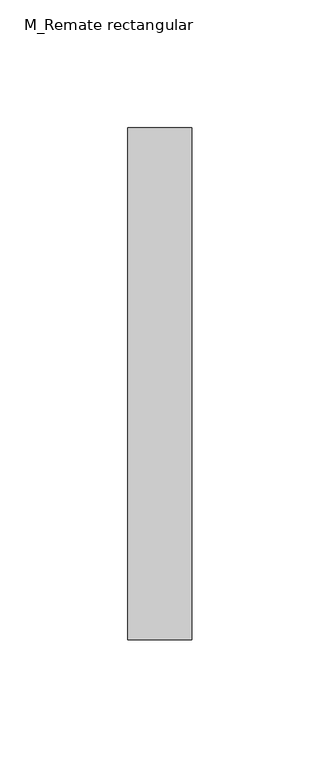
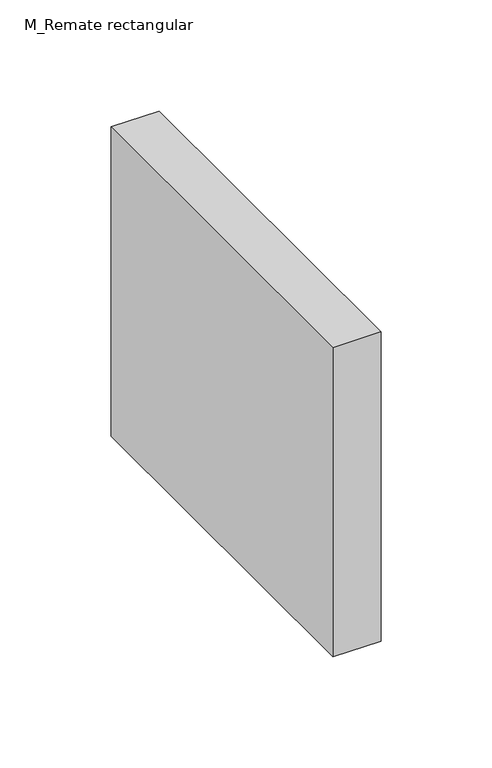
"""IFC4 building model written with IfcOpenShell, lengths in millimetres: duct fitting geometry, M_Remate rectangular : Estándar."""

import ifcopenshell
import ifcopenshell.guid

model = None  # the IFC model being written
_history = None  # IfcOwnerHistory: only IFC2X3 demands one
_inside = {}  # id of a spatial element -> (the spatial element, [elements in it])
_under = {}  # id of a project, library or spatial element -> (it, [spatial elements below it])
_declared = {}  # id of a project -> (the project, [libraries it declares])
_typed = {}  # id of a type object -> (the type object, [elements of that type])
_made_of = {}  # id of a material, layer set ... -> (it, [elements and type objects made of it])


def new_model(schema):
    """Start an empty IFC model of exactly this schema.

    Asked for "IFC4X3", IfcOpenShell would pick the latest addendum, in which some entities
    have other attributes; the version numbers below select the first issue.
    IFC2X3 requires an IfcOwnerHistory on every rooted entity: one is made here for all.
    """
    global model, _history
    if schema == "IFC4X3":
        model = ifcopenshell.file(schema_version=(4, 3, 0, 0))
    else:
        model = ifcopenshell.file(schema=schema)
    _inside.clear()
    _under.clear()
    _declared.clear()
    _typed.clear()
    _made_of.clear()
    _history = None
    if model.schema == "IFC2X3":
        org = make("IfcOrganization", Name="unknown")
        user = make(
            "IfcPersonAndOrganization",
            ThePerson=make("IfcPerson", FamilyName="unknown"),
            TheOrganization=org,
        )
        app = make(
            "IfcApplication",
            ApplicationDeveloper=org,
            Version="unknown",
            ApplicationFullName="unknown",
            ApplicationIdentifier="unknown",
        )
        _history = make(
            "IfcOwnerHistory",
            OwningUser=user,
            OwningApplication=app,
            ChangeAction="ADDED",
            CreationDate=0,
        )
    return model


def make(cls, **values):
    """One entity of the class cls with the attributes given. An attribute that is None is left unset."""
    return model.create_entity(
        cls, **{name: value for name, value in values.items() if value is not None}
    )


def rooted(cls, **values):
    """An entity with a GlobalId (a new one), such as an element, a storey or a relation."""
    return make(cls, GlobalId=ifcopenshell.guid.new(), OwnerHistory=_history, **values)


def si_unit(unit_type, name, prefix=None):
    """IfcSIUnit, for example si_unit("LENGTHUNIT", "METRE", prefix="MILLI")."""
    return make("IfcSIUnit", UnitType=unit_type, Prefix=prefix, Name=name)


def assignment(units):
    """IfcUnitAssignment: the units of a project."""
    return None if units is None else make("IfcUnitAssignment", Units=units)


def point(xyz):
    """IfcCartesianPoint."""
    return None if xyz is None else make("IfcCartesianPoint", Coordinates=xyz)


def direction(xyz):
    """IfcDirection."""
    return None if xyz is None else make("IfcDirection", DirectionRatios=xyz)


def frame(location, z_axis=None, x_axis=None):
    """IfcAxis2Placement3D, a coordinate frame: its origin and axes. An axis left out is left unset."""
    return make(
        "IfcAxis2Placement3D",
        Location=point(location),
        Axis=direction(z_axis),
        RefDirection=direction(x_axis),
    )


def origin():
    """The frame at (0, 0, 0) with its axes left unset."""
    return frame((0.0, 0.0, 0.0))


def place(relative_to, where):
    """IfcLocalPlacement: puts the frame where relative to a parent placement (None: the world)."""
    return make(
        "IfcLocalPlacement", PlacementRelTo=relative_to, RelativePlacement=where
    )


def context(
    kind, dimensions, precision=None, world=None, true_north=None, identifier=None
):
    """IfcGeometricRepresentationContext, for example the 3D "Model" context."""
    return make(
        "IfcGeometricRepresentationContext",
        ContextIdentifier=identifier,
        ContextType=kind,
        CoordinateSpaceDimension=dimensions,
        Precision=precision,
        WorldCoordinateSystem=world,
        TrueNorth=true_north,
    )


def project(units=None, contexts=None):
    """IfcProject with its units and contexts."""
    return rooted(
        "IfcProject",
        Name="project",
        RepresentationContexts=contexts,
        UnitsInContext=assignment(units),
    )


def spatial(cls, under=None, at=None, **own):
    """A site, building, storey or space (cls), placed at a placement, below another one or the project."""
    s = rooted(cls, ObjectPlacement=at, **own)
    if under is not None:
        _under.setdefault(under.id(), (under, []))[1].append(s)
    return s


def polyline(points):
    """IfcPolyline through the points."""
    return make("IfcPolyline", Points=[point(p) for p in points])


def outline(outer, holes=None, kind="AREA"):
    """IfcArbitraryClosedProfileDef: a profile drawn as a closed curve; with holes, ...WithVoids."""
    if holes is None:
        return make("IfcArbitraryClosedProfileDef", ProfileType=kind, OuterCurve=outer)
    return make(
        "IfcArbitraryProfileDefWithVoids",
        ProfileType=kind,
        OuterCurve=outer,
        InnerCurves=holes,
    )


def extrude(swept, where, along, depth):
    """IfcExtrudedAreaSolid: the profile swept, set in the frame where, extruded along a direction by depth."""
    return make(
        "IfcExtrudedAreaSolid",
        SweptArea=swept,
        Position=where,
        ExtrudedDirection=direction(along),
        Depth=depth,
    )


def shape(context_of_items, identifier, shape_type, items):
    """IfcShapeRepresentation: the items that make up one representation, for example the "Body"."""
    return make(
        "IfcShapeRepresentation",
        ContextOfItems=context_of_items,
        RepresentationIdentifier=identifier,
        RepresentationType=shape_type,
        Items=items,
    )


def source(mapping_origin, context_of_items, identifier, shape_type, items):
    """IfcRepresentationMap: a shape defined once, which mapped items show again and again."""
    return make(
        "IfcRepresentationMap",
        MappingOrigin=mapping_origin,
        MappedRepresentation=shape(context_of_items, identifier, shape_type, items),
    )


def transform(
    local_origin,
    x_axis=None,
    y_axis=None,
    z_axis=None,
    scale=None,
    scale2=None,
    scale3=None,
    uniform=True,
):
    """IfcCartesianTransformationOperator3D, or its non-uniform kind. x_axis, y_axis, z_axis: its Axis1, 2, 3."""
    if uniform:
        return make(
            "IfcCartesianTransformationOperator3D",
            Axis1=direction(x_axis),
            Axis2=direction(y_axis),
            LocalOrigin=point(local_origin),
            Scale=scale,
            Axis3=direction(z_axis),
        )
    return make(
        "IfcCartesianTransformationOperator3DnonUniform",
        Axis1=direction(x_axis),
        Axis2=direction(y_axis),
        LocalOrigin=point(local_origin),
        Scale=scale,
        Axis3=direction(z_axis),
        Scale2=scale2,
        Scale3=scale3,
    )


def mapped(mapping_source, mapping_target):
    """IfcMappedItem: shows the shape of a source again, moved by a transform."""
    return make(
        "IfcMappedItem", MappingSource=mapping_source, MappingTarget=mapping_target
    )


def made_of(thing, what):
    """Note that an element or type object is made of a material, layer set ...; save() writes the relation."""
    if what is not None:
        _made_of.setdefault(what.id(), (what, []))[1].append(thing)
    return thing


def element(
    cls,
    number,
    at=None,
    inside=None,
    cuts=None,
    type_object=None,
    material=None,
    context=None,
    identifier="Body",
    shape_type=None,
    held_by="IfcProductDefinitionShape",
    body=None,
    shapes=None,
    **own,
):
    """One element of the class cls, such as IfcWall. Its Tag is "e" and its number.

    at: its placement. inside: the storey or other place that contains it. cuts: it is an
    opening in that element (IfcRelVoidsElement). A single representation is given by context,
    identifier, shape_type and body (its items); several are given by shapes. held_by: the class
    of the entity that holds the representations. save() writes the other relations.
    """
    e = rooted(cls, Tag="e%d" % number, ObjectPlacement=at, **own)
    if body is not None:
        shapes = [shape(context, identifier, shape_type, body)]
    if shapes is not None:
        e.Representation = make(held_by, Representations=shapes)
    if inside is not None:
        _inside.setdefault(inside.id(), (inside, []))[1].append(e)
    if cuts is not None:
        rooted(
            "IfcRelVoidsElement", RelatingBuildingElement=cuts, RelatedOpeningElement=e
        )
    if type_object is not None:
        _typed.setdefault(type_object.id(), (type_object, []))[1].append(e)
    return made_of(e, material)


def aggregate(whole, parts):
    """IfcRelAggregates: a whole, such as a stair, and the parts it consists of."""
    return rooted("IfcRelAggregates", RelatingObject=whole, RelatedObjects=parts)


def save(model, path):
    """Write the relations noted so far, then the file.

    IfcRelAggregates (storeys below a building ...), IfcRelContainedInSpatialStructure (elements
    in a storey), IfcRelDefinesByType, IfcRelAssociatesMaterial and IfcRelDeclares: one each for
    every whole, place, type object, material and project.
    """
    for whole, parts in _under.values():
        aggregate(whole, parts)
    for where, things in _inside.values():
        rooted(
            "IfcRelContainedInSpatialStructure",
            RelatedElements=things,
            RelatingStructure=where,
        )
    for kind, things in _typed.values():
        rooted("IfcRelDefinesByType", RelatedObjects=things, RelatingType=kind)
    for what, things in _made_of.values():
        rooted("IfcRelAssociatesMaterial", RelatedObjects=things, RelatingMaterial=what)
    for by, libraries in _declared.values():
        rooted("IfcRelDeclares", RelatingContext=by, RelatedDefinitions=libraries)
    model.write(path)


def m_remate_rectangular_451ecee6(model_context):
    return source(origin(), model_context, "Body", "SweptSolid", [
        extrude(outline(polyline([(0.0, -100.0), (0.0, 100.0), (25.0, 100.0), (25.0, -100.0), (0.0, -100.0)])), frame((0.0, 0.0, -85.0), z_axis=(0.0, 0.0, 1.0), x_axis=(1.0, 0.0, 0.0)), (0.0, 0.0, 1.0), 170.0),
    ])


if __name__ == "__main__":
    model = new_model("IFC4")
    model_context = context("Model", 3, world=origin())
    ifc_project = project(units=[si_unit("LENGTHUNIT", "METRE", prefix="MILLI")], contexts=[model_context])
    site = spatial("IfcSite", under=ifc_project)
    building = spatial("IfcBuilding", under=site)
    placement = place(None, origin())
    m_remate_rectangular_shape = m_remate_rectangular_451ecee6(model_context)
    element("IfcDuctFitting", 1, ObjectType="M_Remate rectangular : Estándar", at=placement, inside=building, context=model_context, shape_type="MappedRepresentation", body=[
        mapped(m_remate_rectangular_shape, transform((0.0, 0.0, 0.0), x_axis=(1.0, 0.0, 0.0), y_axis=(0.0, 1.0, 0.0), z_axis=(0.0, 0.0, 1.0))),
    ])
    save(model, "model.ifc")
